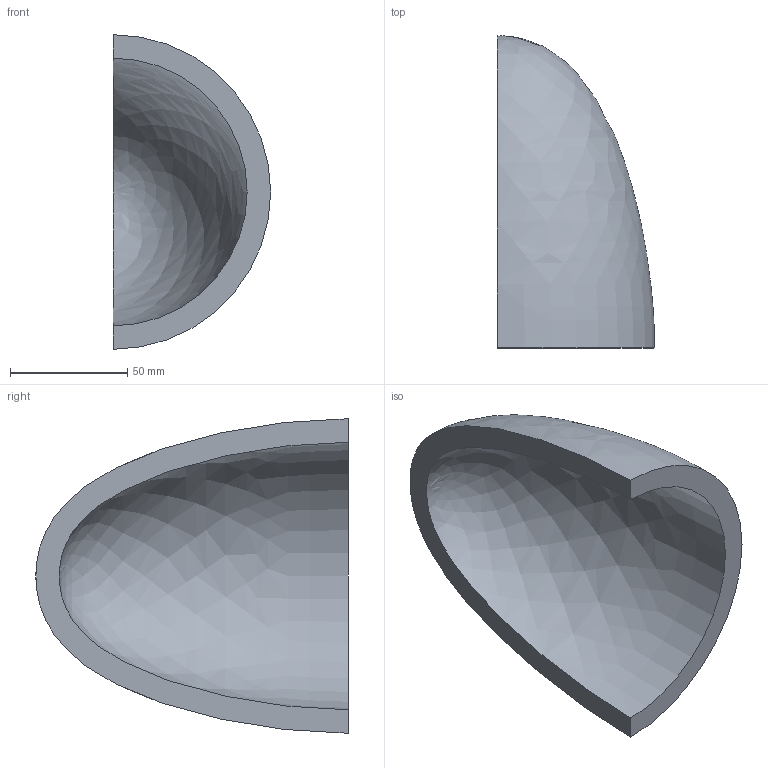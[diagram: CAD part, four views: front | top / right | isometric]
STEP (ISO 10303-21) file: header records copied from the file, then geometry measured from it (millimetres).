
FILE_DESCRIPTION(('CATIA V5 STEP Exchange'),'2;1');
FILE_NAME('C:\_Andres\UNIVERSIDAD\IQS\ASIGNATURAS\DAO\EXF\EXF-16172c\2inicio\Sarrió_Mercade_Ej10_v33.stp','2017-03-05T22:31:16+00:00',('none'),('none'),'CATIA Version 5-6 Release 2014 SP1 HF18','CATIA V5 STEP AP203','none');
FILE_SCHEMA(('CONFIG_CONTROL_DESIGN'));
Length unit declared in the file: millimetre
Products named in the file (1): Sarrió_Mercade_Ej10_v33
Bounding box: 67 x 133 x 134 mm (x, y, z)
Volume: 214081.6 mm3; surface area: 47962.3 mm2
Topology: 1 solids, 1 shells, 4 faces, 10 edges, 6 vertices
Faces by surface type: revolution 2, plane 2
Entity records: 254 total; most frequent: CARTESIAN_POINT 132, ORIENTED_EDGE 16, DIRECTION 10, EDGE_CURVE 8, B_SPLINE_CURVE_WITH_KNOTS 6, VERTEX_POINT 6, AXIS2_PLACEMENT_3D 5, ADVANCED_FACE 4
